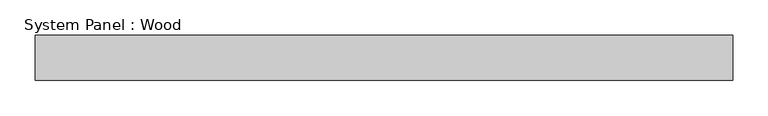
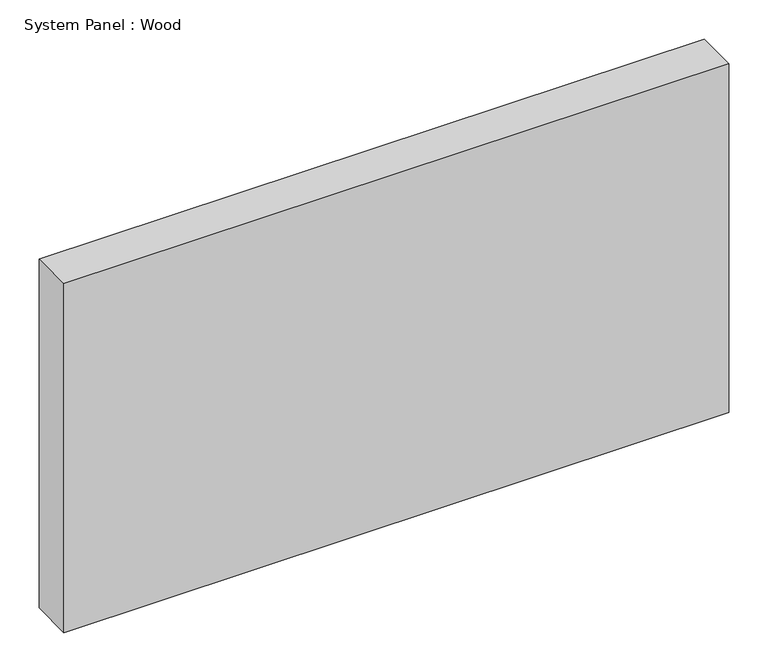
"""IFC4 building model written with IfcOpenShell, lengths in millimetres: plate geometry, System Panel : Wood."""

from ifc_helpers import new_model, si_unit, origin, origin_with_axes, place, context, project, spatial, polyline, outline, extrude, source, transform, mapped, element, save


def system_panel_wood_6b220d8b(model_context):
    return source(origin(), model_context, "Body", "SweptSolid", [
        extrude(outline(polyline([(492.125, -19.05), (-492.125, -19.05), (-492.125, 44.45), (492.125, 44.45), (492.125, -19.05)])), origin_with_axes(), (0.0, 0.0, 1.0), 546.1),
    ])


if __name__ == "__main__":
    model = new_model("IFC4")
    model_context = context("Model", 3, world=origin())
    ifc_project = project(units=[si_unit("LENGTHUNIT", "METRE", prefix="MILLI")], contexts=[model_context])
    site = spatial("IfcSite", under=ifc_project)
    building = spatial("IfcBuilding", under=site)
    placement = place(None, origin())
    system_panel_wood_shape = system_panel_wood_6b220d8b(model_context)
    element("IfcPlate", 1, ObjectType="System Panel : Wood", at=placement, inside=building, context=model_context, shape_type="MappedRepresentation", body=[
        mapped(system_panel_wood_shape, transform((0.0, 0.0, 0.0), x_axis=(1.0, 0.0, 0.0), y_axis=(0.0, 1.0, 0.0), z_axis=(0.0, 0.0, 1.0))),
    ])
    save(model, "model.ifc")
